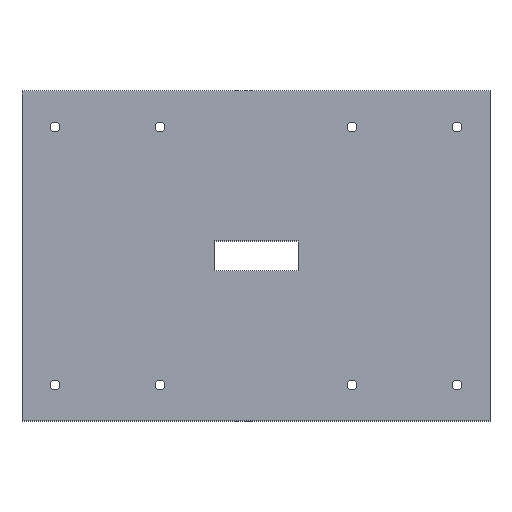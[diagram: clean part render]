
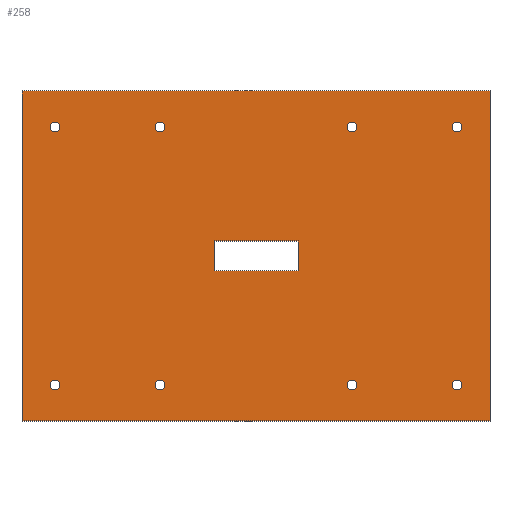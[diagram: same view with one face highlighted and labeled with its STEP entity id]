
A CAD part, top view. The second image highlights one B-rep face of the part: STEP entity #258.
In plain terms, the highlighted planar face has unit normal (0, 0, 1).
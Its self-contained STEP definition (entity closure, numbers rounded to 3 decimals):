
#24 = VERTEX_POINT('',#25);
#25 = CARTESIAN_POINT('',(-78.,-55.,22.5));
#31 = EDGE_CURVE('',#24,#32,#34,.T.);
#32 = VERTEX_POINT('',#33);
#33 = CARTESIAN_POINT('',(78.,-55.,22.5));
#34 = LINE('',#35,#36);
#35 = CARTESIAN_POINT('',(-78.,-55.,22.5));
#36 = VECTOR('',#37,1.);
#37 = DIRECTION('',(1.,0.,0.));
#64 = VERTEX_POINT('',#65);
#65 = CARTESIAN_POINT('',(-78.,55.,22.5));
#71 = EDGE_CURVE('',#64,#24,#72,.T.);
#72 = LINE('',#73,#74);
#73 = CARTESIAN_POINT('',(-78.,55.,22.5));
#74 = VECTOR('',#75,1.);
#75 = DIRECTION('',(0.,-1.,0.));
#93 = EDGE_CURVE('',#32,#94,#96,.T.);
#94 = VERTEX_POINT('',#95);
#95 = CARTESIAN_POINT('',(78.,55.,22.5));
#96 = LINE('',#97,#98);
#97 = CARTESIAN_POINT('',(78.,-55.,22.5));
#98 = VECTOR('',#99,1.);
#99 = DIRECTION('',(0.,1.,0.));
#258 = ADVANCED_FACE('',(#259,#270,#281,#292,#303,#314,#348,#359,#370,
    #381),#392,.T.);
#259 = FACE_BOUND('',#260,.T.);
#260 = EDGE_LOOP('',(#261,#262,#263,#269));
#261 = ORIENTED_EDGE('',*,*,#31,.T.);
#262 = ORIENTED_EDGE('',*,*,#93,.T.);
#263 = ORIENTED_EDGE('',*,*,#264,.T.);
#264 = EDGE_CURVE('',#94,#64,#265,.T.);
#265 = LINE('',#266,#267);
#266 = CARTESIAN_POINT('',(78.,55.,22.5));
#267 = VECTOR('',#268,1.);
#268 = DIRECTION('',(-1.,0.,0.));
#269 = ORIENTED_EDGE('',*,*,#71,.T.);
#270 = FACE_BOUND('',#271,.T.);
#271 = EDGE_LOOP('',(#272));
#272 = ORIENTED_EDGE('',*,*,#273,.F.);
#273 = EDGE_CURVE('',#274,#274,#276,.T.);
#274 = VERTEX_POINT('',#275);
#275 = CARTESIAN_POINT('',(-65.35,-43.,22.5));
#276 = CIRCLE('',#277,1.65);
#277 = AXIS2_PLACEMENT_3D('',#278,#279,#280);
#278 = CARTESIAN_POINT('',(-67.,-43.,22.5));
#279 = DIRECTION('',(0.,0.,1.));
#280 = DIRECTION('',(1.,0.,0.));
#281 = FACE_BOUND('',#282,.T.);
#282 = EDGE_LOOP('',(#283));
#283 = ORIENTED_EDGE('',*,*,#284,.F.);
#284 = EDGE_CURVE('',#285,#285,#287,.T.);
#285 = VERTEX_POINT('',#286);
#286 = CARTESIAN_POINT('',(-30.35,-43.,22.5));
#287 = CIRCLE('',#288,1.65);
#288 = AXIS2_PLACEMENT_3D('',#289,#290,#291);
#289 = CARTESIAN_POINT('',(-32.,-43.,22.5));
#290 = DIRECTION('',(0.,0.,1.));
#291 = DIRECTION('',(1.,0.,0.));
#292 = FACE_BOUND('',#293,.T.);
#293 = EDGE_LOOP('',(#294));
#294 = ORIENTED_EDGE('',*,*,#295,.F.);
#295 = EDGE_CURVE('',#296,#296,#298,.T.);
#296 = VERTEX_POINT('',#297);
#297 = CARTESIAN_POINT('',(33.65,-43.,22.5));
#298 = CIRCLE('',#299,1.65);
#299 = AXIS2_PLACEMENT_3D('',#300,#301,#302);
#300 = CARTESIAN_POINT('',(32.,-43.,22.5));
#301 = DIRECTION('',(0.,0.,1.));
#302 = DIRECTION('',(1.,0.,0.));
#303 = FACE_BOUND('',#304,.T.);
#304 = EDGE_LOOP('',(#305));
#305 = ORIENTED_EDGE('',*,*,#306,.F.);
#306 = EDGE_CURVE('',#307,#307,#309,.T.);
#307 = VERTEX_POINT('',#308);
#308 = CARTESIAN_POINT('',(68.65,-43.,22.5));
#309 = CIRCLE('',#310,1.65);
#310 = AXIS2_PLACEMENT_3D('',#311,#312,#313);
#311 = CARTESIAN_POINT('',(67.,-43.,22.5));
#312 = DIRECTION('',(0.,0.,1.));
#313 = DIRECTION('',(1.,0.,0.));
#314 = FACE_BOUND('',#315,.T.);
#315 = EDGE_LOOP('',(#316,#326,#334,#342));
#316 = ORIENTED_EDGE('',*,*,#317,.F.);
#317 = EDGE_CURVE('',#318,#320,#322,.T.);
#318 = VERTEX_POINT('',#319);
#319 = CARTESIAN_POINT('',(-14.,-5.,22.5));
#320 = VERTEX_POINT('',#321);
#321 = CARTESIAN_POINT('',(14.,-5.,22.5));
#322 = LINE('',#323,#324);
#323 = CARTESIAN_POINT('',(-14.,-5.,22.5));
#324 = VECTOR('',#325,1.);
#325 = DIRECTION('',(1.,0.,0.));
#326 = ORIENTED_EDGE('',*,*,#327,.F.);
#327 = EDGE_CURVE('',#328,#318,#330,.T.);
#328 = VERTEX_POINT('',#329);
#329 = CARTESIAN_POINT('',(-14.,5.,22.5));
#330 = LINE('',#331,#332);
#331 = CARTESIAN_POINT('',(-14.,5.,22.5));
#332 = VECTOR('',#333,1.);
#333 = DIRECTION('',(0.,-1.,0.));
#334 = ORIENTED_EDGE('',*,*,#335,.F.);
#335 = EDGE_CURVE('',#336,#328,#338,.T.);
#336 = VERTEX_POINT('',#337);
#337 = CARTESIAN_POINT('',(14.,5.,22.5));
#338 = LINE('',#339,#340);
#339 = CARTESIAN_POINT('',(14.,5.,22.5));
#340 = VECTOR('',#341,1.);
#341 = DIRECTION('',(-1.,0.,0.));
#342 = ORIENTED_EDGE('',*,*,#343,.F.);
#343 = EDGE_CURVE('',#320,#336,#344,.T.);
#344 = LINE('',#345,#346);
#345 = CARTESIAN_POINT('',(14.,-5.,22.5));
#346 = VECTOR('',#347,1.);
#347 = DIRECTION('',(0.,1.,0.));
#348 = FACE_BOUND('',#349,.T.);
#349 = EDGE_LOOP('',(#350));
#350 = ORIENTED_EDGE('',*,*,#351,.F.);
#351 = EDGE_CURVE('',#352,#352,#354,.T.);
#352 = VERTEX_POINT('',#353);
#353 = CARTESIAN_POINT('',(-65.35,43.,22.5));
#354 = CIRCLE('',#355,1.65);
#355 = AXIS2_PLACEMENT_3D('',#356,#357,#358);
#356 = CARTESIAN_POINT('',(-67.,43.,22.5));
#357 = DIRECTION('',(0.,0.,1.));
#358 = DIRECTION('',(1.,0.,0.));
#359 = FACE_BOUND('',#360,.T.);
#360 = EDGE_LOOP('',(#361));
#361 = ORIENTED_EDGE('',*,*,#362,.F.);
#362 = EDGE_CURVE('',#363,#363,#365,.T.);
#363 = VERTEX_POINT('',#364);
#364 = CARTESIAN_POINT('',(-30.35,43.,22.5));
#365 = CIRCLE('',#366,1.65);
#366 = AXIS2_PLACEMENT_3D('',#367,#368,#369);
#367 = CARTESIAN_POINT('',(-32.,43.,22.5));
#368 = DIRECTION('',(0.,0.,1.));
#369 = DIRECTION('',(1.,0.,0.));
#370 = FACE_BOUND('',#371,.T.);
#371 = EDGE_LOOP('',(#372));
#372 = ORIENTED_EDGE('',*,*,#373,.F.);
#373 = EDGE_CURVE('',#374,#374,#376,.T.);
#374 = VERTEX_POINT('',#375);
#375 = CARTESIAN_POINT('',(33.65,43.,22.5));
#376 = CIRCLE('',#377,1.65);
#377 = AXIS2_PLACEMENT_3D('',#378,#379,#380);
#378 = CARTESIAN_POINT('',(32.,43.,22.5));
#379 = DIRECTION('',(0.,0.,1.));
#380 = DIRECTION('',(1.,0.,0.));
#381 = FACE_BOUND('',#382,.T.);
#382 = EDGE_LOOP('',(#383));
#383 = ORIENTED_EDGE('',*,*,#384,.F.);
#384 = EDGE_CURVE('',#385,#385,#387,.T.);
#385 = VERTEX_POINT('',#386);
#386 = CARTESIAN_POINT('',(68.65,43.,22.5));
#387 = CIRCLE('',#388,1.65);
#388 = AXIS2_PLACEMENT_3D('',#389,#390,#391);
#389 = CARTESIAN_POINT('',(67.,43.,22.5));
#390 = DIRECTION('',(0.,0.,1.));
#391 = DIRECTION('',(1.,0.,0.));
#392 = PLANE('',#393);
#393 = AXIS2_PLACEMENT_3D('',#394,#395,#396);
#394 = CARTESIAN_POINT('',(0.,0.,22.5));
#395 = DIRECTION('',(0.,0.,1.));
#396 = DIRECTION('',(1.,0.,0.));
